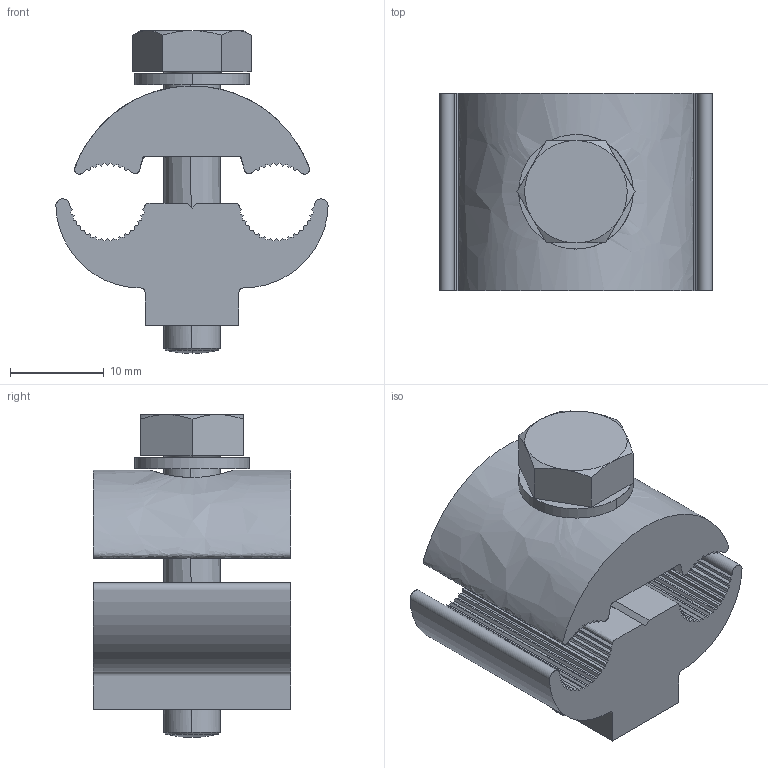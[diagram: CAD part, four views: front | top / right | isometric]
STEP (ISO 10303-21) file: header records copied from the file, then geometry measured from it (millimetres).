
FILE_DESCRIPTION(/* description */ (''),/* implementation_level */ '2;1');
FILE_NAME(/* name */ 'SVZM 1',/* time_stamp */ '2012-11-29T22:19:41+01:00',/* author */ (''),/* organization */ (''),/* preprocessor_version */ 'ST-DEVELOPER v10',/* originating_system */ '',/* authorisation */ '');
FILE_SCHEMA (('AUTOMOTIVE_DESIGN_CC2'));
Length unit declared in the file: millimetre
Products named in the file (1): 1
Bounding box: 28.99 x 21 x 34.38 mm (x, y, z)
Surface area: 5424.4 mm2 (no closed solid volume)
Topology: 0 solids, 182 shells, 189 faces, 1047 edges, 1032 vertices
Faces by surface type: plane 115, bspline 74
Entity records: 13843 total; most frequent: CARTESIAN_POINT 7165, ORIENTED_EDGE 1055, EDGE_CURVE 1041, VERTEX_POINT 1028, B_SPLINE_CURVE_WITH_KNOTS 772, EDGE_LOOP 195, ADVANCED_FACE 189, FACE_OUTER_BOUND 189
